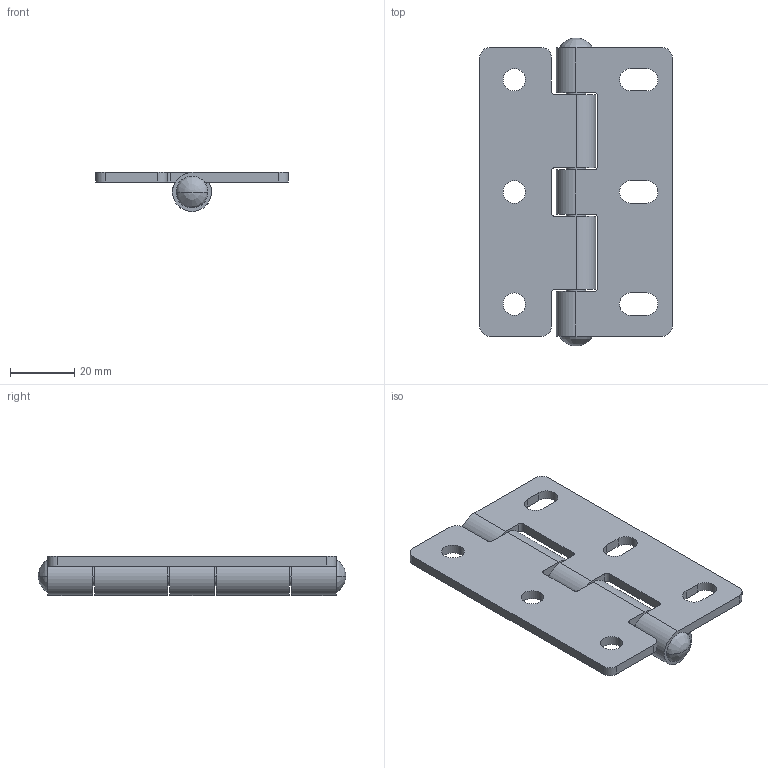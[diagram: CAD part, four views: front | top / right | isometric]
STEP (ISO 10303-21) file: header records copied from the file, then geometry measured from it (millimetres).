
FILE_DESCRIPTION(/* description */ (''),/* implementation_level */ '2;1');
FILE_NAME(/* name */ 'JL253-3',/* time_stamp */ '2024-10-05T14:09:03+08:00',/* author */ (''),/* organization */ (''),/* preprocessor_version */ 'ST-DEVELOPER v19.2',/* originating_system */ 'Rhino 8.5',/* authorisation */ '');
FILE_SCHEMA (('CONFIG_CONTROL_DESIGN'));
Length unit declared in the file: millimetre
Products named in the file (1): Document
Bounding box: 60 x 96.01 x 12.2 mm (x, y, z)
Volume: 22311.6 mm3; surface area: 17747.2 mm2
Topology: 3 solids, 3 shells, 78 faces, 216 edges, 142 vertices
Faces by surface type: cylinder 38, plane 36, bspline 4
Entity records: 2677 total; most frequent: CARTESIAN_POINT 840, ORIENTED_EDGE 424, DIRECTION 232, EDGE_CURVE 212, AXIS2_PLACEMENT_3D 150, VERTEX_POINT 142, B_SPLINE_CURVE_WITH_KNOTS 97, EDGE_LOOP 92
